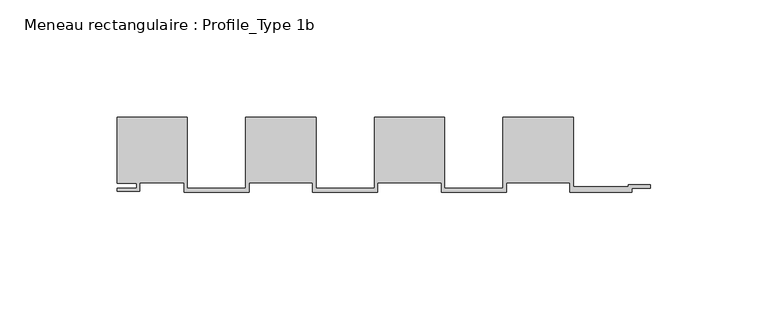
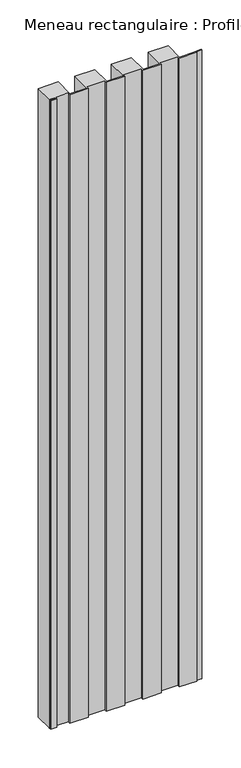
"""IFC4 building model written with IfcOpenShell, lengths in millimetres: member geometry, Meneau rectangulaire : Profile_Type 1b."""

import ifcopenshell
import ifcopenshell.guid

model = None  # the IFC model being written
_history = None  # IfcOwnerHistory: only IFC2X3 demands one
_inside = {}  # id of a spatial element -> (the spatial element, [elements in it])
_under = {}  # id of a project, library or spatial element -> (it, [spatial elements below it])
_declared = {}  # id of a project -> (the project, [libraries it declares])
_typed = {}  # id of a type object -> (the type object, [elements of that type])
_made_of = {}  # id of a material, layer set ... -> (it, [elements and type objects made of it])


def new_model(schema):
    """Start an empty IFC model of exactly this schema.

    Asked for "IFC4X3", IfcOpenShell would pick the latest addendum, in which some entities
    have other attributes; the version numbers below select the first issue.
    IFC2X3 requires an IfcOwnerHistory on every rooted entity: one is made here for all.
    """
    global model, _history
    if schema == "IFC4X3":
        model = ifcopenshell.file(schema_version=(4, 3, 0, 0))
    else:
        model = ifcopenshell.file(schema=schema)
    _inside.clear()
    _under.clear()
    _declared.clear()
    _typed.clear()
    _made_of.clear()
    _history = None
    if model.schema == "IFC2X3":
        org = make("IfcOrganization", Name="unknown")
        user = make(
            "IfcPersonAndOrganization",
            ThePerson=make("IfcPerson", FamilyName="unknown"),
            TheOrganization=org,
        )
        app = make(
            "IfcApplication",
            ApplicationDeveloper=org,
            Version="unknown",
            ApplicationFullName="unknown",
            ApplicationIdentifier="unknown",
        )
        _history = make(
            "IfcOwnerHistory",
            OwningUser=user,
            OwningApplication=app,
            ChangeAction="ADDED",
            CreationDate=0,
        )
    return model


def make(cls, **values):
    """One entity of the class cls with the attributes given. An attribute that is None is left unset."""
    return model.create_entity(
        cls, **{name: value for name, value in values.items() if value is not None}
    )


def rooted(cls, **values):
    """An entity with a GlobalId (a new one), such as an element, a storey or a relation."""
    return make(cls, GlobalId=ifcopenshell.guid.new(), OwnerHistory=_history, **values)


def si_unit(unit_type, name, prefix=None):
    """IfcSIUnit, for example si_unit("LENGTHUNIT", "METRE", prefix="MILLI")."""
    return make("IfcSIUnit", UnitType=unit_type, Prefix=prefix, Name=name)


def assignment(units):
    """IfcUnitAssignment: the units of a project."""
    return None if units is None else make("IfcUnitAssignment", Units=units)


def point(xyz):
    """IfcCartesianPoint."""
    return None if xyz is None else make("IfcCartesianPoint", Coordinates=xyz)


def direction(xyz):
    """IfcDirection."""
    return None if xyz is None else make("IfcDirection", DirectionRatios=xyz)


def frame(location, z_axis=None, x_axis=None):
    """IfcAxis2Placement3D, a coordinate frame: its origin and axes. An axis left out is left unset."""
    return make(
        "IfcAxis2Placement3D",
        Location=point(location),
        Axis=direction(z_axis),
        RefDirection=direction(x_axis),
    )


def frame_2d(location, x_axis=None):
    """IfcAxis2Placement2D, a coordinate frame in the plane: its origin and x axis."""
    return make(
        "IfcAxis2Placement2D", Location=point(location), RefDirection=direction(x_axis)
    )


def origin():
    """The frame at (0, 0, 0) with its axes left unset."""
    return frame((0.0, 0.0, 0.0))


def place(relative_to, where):
    """IfcLocalPlacement: puts the frame where relative to a parent placement (None: the world)."""
    return make(
        "IfcLocalPlacement", PlacementRelTo=relative_to, RelativePlacement=where
    )


def context(
    kind, dimensions, precision=None, world=None, true_north=None, identifier=None
):
    """IfcGeometricRepresentationContext, for example the 3D "Model" context."""
    return make(
        "IfcGeometricRepresentationContext",
        ContextIdentifier=identifier,
        ContextType=kind,
        CoordinateSpaceDimension=dimensions,
        Precision=precision,
        WorldCoordinateSystem=world,
        TrueNorth=true_north,
    )


def project(units=None, contexts=None):
    """IfcProject with its units and contexts."""
    return rooted(
        "IfcProject",
        Name="project",
        RepresentationContexts=contexts,
        UnitsInContext=assignment(units),
    )


def spatial(cls, under=None, at=None, **own):
    """A site, building, storey or space (cls), placed at a placement, below another one or the project."""
    s = rooted(cls, ObjectPlacement=at, **own)
    if under is not None:
        _under.setdefault(under.id(), (under, []))[1].append(s)
    return s


def polyline(points):
    """IfcPolyline through the points."""
    return make("IfcPolyline", Points=[point(p) for p in points])


def circle_curve(where, radius):
    """IfcCircle in the frame where."""
    return make("IfcCircle", Position=where, Radius=radius)


def trimmed(basis, trim1, trim2, sense, master):
    """IfcTrimmedCurve: the piece of a basis curve between two trims."""
    return make(
        "IfcTrimmedCurve",
        BasisCurve=basis,
        Trim1=trim1,
        Trim2=trim2,
        SenseAgreement=sense,
        MasterRepresentation=master,
    )


def segment(curve, same_sense, transition):
    """IfcCompositeCurveSegment."""
    return make(
        "IfcCompositeCurveSegment",
        Transition=transition,
        SameSense=same_sense,
        ParentCurve=curve,
    )


def composite_curve(segments, self_intersect=None):
    """IfcCompositeCurve: segments joined end to end."""
    return make("IfcCompositeCurve", Segments=segments, SelfIntersect=self_intersect)


def outline(outer, holes=None, kind="AREA"):
    """IfcArbitraryClosedProfileDef: a profile drawn as a closed curve; with holes, ...WithVoids."""
    if holes is None:
        return make("IfcArbitraryClosedProfileDef", ProfileType=kind, OuterCurve=outer)
    return make(
        "IfcArbitraryProfileDefWithVoids",
        ProfileType=kind,
        OuterCurve=outer,
        InnerCurves=holes,
    )


def extrude(swept, where, along, depth):
    """IfcExtrudedAreaSolid: the profile swept, set in the frame where, extruded along a direction by depth."""
    return make(
        "IfcExtrudedAreaSolid",
        SweptArea=swept,
        Position=where,
        ExtrudedDirection=direction(along),
        Depth=depth,
    )


def shape(context_of_items, identifier, shape_type, items):
    """IfcShapeRepresentation: the items that make up one representation, for example the "Body"."""
    return make(
        "IfcShapeRepresentation",
        ContextOfItems=context_of_items,
        RepresentationIdentifier=identifier,
        RepresentationType=shape_type,
        Items=items,
    )


def source(mapping_origin, context_of_items, identifier, shape_type, items):
    """IfcRepresentationMap: a shape defined once, which mapped items show again and again."""
    return make(
        "IfcRepresentationMap",
        MappingOrigin=mapping_origin,
        MappedRepresentation=shape(context_of_items, identifier, shape_type, items),
    )


def transform(
    local_origin,
    x_axis=None,
    y_axis=None,
    z_axis=None,
    scale=None,
    scale2=None,
    scale3=None,
    uniform=True,
):
    """IfcCartesianTransformationOperator3D, or its non-uniform kind. x_axis, y_axis, z_axis: its Axis1, 2, 3."""
    if uniform:
        return make(
            "IfcCartesianTransformationOperator3D",
            Axis1=direction(x_axis),
            Axis2=direction(y_axis),
            LocalOrigin=point(local_origin),
            Scale=scale,
            Axis3=direction(z_axis),
        )
    return make(
        "IfcCartesianTransformationOperator3DnonUniform",
        Axis1=direction(x_axis),
        Axis2=direction(y_axis),
        LocalOrigin=point(local_origin),
        Scale=scale,
        Axis3=direction(z_axis),
        Scale2=scale2,
        Scale3=scale3,
    )


def mapped(mapping_source, mapping_target):
    """IfcMappedItem: shows the shape of a source again, moved by a transform."""
    return make(
        "IfcMappedItem", MappingSource=mapping_source, MappingTarget=mapping_target
    )


def made_of(thing, what):
    """Note that an element or type object is made of a material, layer set ...; save() writes the relation."""
    if what is not None:
        _made_of.setdefault(what.id(), (what, []))[1].append(thing)
    return thing


def element(
    cls,
    number,
    at=None,
    inside=None,
    cuts=None,
    type_object=None,
    material=None,
    context=None,
    identifier="Body",
    shape_type=None,
    held_by="IfcProductDefinitionShape",
    body=None,
    shapes=None,
    **own,
):
    """One element of the class cls, such as IfcWall. Its Tag is "e" and its number.

    at: its placement. inside: the storey or other place that contains it. cuts: it is an
    opening in that element (IfcRelVoidsElement). A single representation is given by context,
    identifier, shape_type and body (its items); several are given by shapes. held_by: the class
    of the entity that holds the representations. save() writes the other relations.
    """
    e = rooted(cls, Tag="e%d" % number, ObjectPlacement=at, **own)
    if body is not None:
        shapes = [shape(context, identifier, shape_type, body)]
    if shapes is not None:
        e.Representation = make(held_by, Representations=shapes)
    if inside is not None:
        _inside.setdefault(inside.id(), (inside, []))[1].append(e)
    if cuts is not None:
        rooted(
            "IfcRelVoidsElement", RelatingBuildingElement=cuts, RelatedOpeningElement=e
        )
    if type_object is not None:
        _typed.setdefault(type_object.id(), (type_object, []))[1].append(e)
    return made_of(e, material)


def aggregate(whole, parts):
    """IfcRelAggregates: a whole, such as a stair, and the parts it consists of."""
    return rooted("IfcRelAggregates", RelatingObject=whole, RelatedObjects=parts)


def save(model, path):
    """Write the relations noted so far, then the file.

    IfcRelAggregates (storeys below a building ...), IfcRelContainedInSpatialStructure (elements
    in a storey), IfcRelDefinesByType, IfcRelAssociatesMaterial and IfcRelDeclares: one each for
    every whole, place, type object, material and project.
    """
    for whole, parts in _under.values():
        aggregate(whole, parts)
    for where, things in _inside.values():
        rooted(
            "IfcRelContainedInSpatialStructure",
            RelatedElements=things,
            RelatingStructure=where,
        )
    for kind, things in _typed.values():
        rooted("IfcRelDefinesByType", RelatedObjects=things, RelatingType=kind)
    for what, things in _made_of.values():
        rooted("IfcRelAssociatesMaterial", RelatedObjects=things, RelatingMaterial=what)
    for by, libraries in _declared.values():
        rooted("IfcRelDeclares", RelatingContext=by, RelatedDefinitions=libraries)
    model.write(path)


def meneau_rectangulaire_profile_type_1b_46663aac(model_context):
    return source(origin(), model_context, "Body", "SweptSolid", [
        extrude(outline(composite_curve([segment(polyline([(0.0301449, 41.0007666), (30.0301449, 41.0007666), (30.0301449, 10.65), (55.0270875, 10.65), (55.0270875, 41.0007666), (85.0270875, 41.0007666), (85.0270875, 10.65), (109.9788571, 10.65), (109.9788571, 41.0007666), (140.0240301, 41.0007666), (140.0240301, 10.65), (165.0209727, 10.65), (165.0209727, 41.0007666), (195.0209727, 41.0007666), (195.0209727, 11.2), (218.4753672, 11.2), (218.4753672, 12.0), (227.991216, 12.0), (227.991216, 10.65), (219.9937223, 10.65), (219.9937223, 8.8), (193.6209727, 8.8), (193.6209727, 12.9), (166.4209727, 12.9), (166.4209727, 8.8), (138.6240301, 8.8), (138.6240301, 12.9), (111.4240301, 12.9), (111.4240301, 8.8), (83.6270875, 8.8), (83.6270875, 12.9), (56.4270875, 12.9), (56.4270875, 8.8), (28.6301449, 8.8), (28.6301449, 12.9), (9.6195527, 12.9), (9.6195527, 9.4), (0.0, 9.4), (0.0, 10.5), (8.4195527, 10.5), (8.4195527, 12.7), (0.5290456, 12.7)]), True, "CONTINUOUS"), segment(trimmed(circle_curve(frame_2d((0.5290456, 13.1989007)), 0.4989007), [point((0.5290456, 12.7))], [point((0.0301449, 13.1989007))], False, "CARTESIAN"), True, "CONTINUOUS"), segment(polyline([(0.0301449, 13.1989007), (0.0301449, 41.0007666)]), True, "CONTINUOUS")], self_intersect=False)), frame((0.0, 0.0, -1000.0), z_axis=(0.0, 0.0, 1.0), x_axis=(1.0, 0.0, 0.0)), (0.0, 0.0, 1.0), 1000.0),
    ])


if __name__ == "__main__":
    model = new_model("IFC4")
    model_context = context("Model", 3, world=origin())
    ifc_project = project(units=[si_unit("LENGTHUNIT", "METRE", prefix="MILLI")], contexts=[model_context])
    site = spatial("IfcSite", under=ifc_project)
    building = spatial("IfcBuilding", under=site)
    placement = place(None, origin())
    meneau_rectangulaire_profile_type_1b_shape = meneau_rectangulaire_profile_type_1b_46663aac(model_context)
    element("IfcMember", 1, ObjectType="Meneau rectangulaire : Profile_Type 1b", at=placement, inside=building, context=model_context, shape_type="MappedRepresentation", body=[
        mapped(meneau_rectangulaire_profile_type_1b_shape, transform((0.0, 0.0, 0.0), x_axis=(1.0, 0.0, 0.0), y_axis=(0.0, 1.0, 0.0), z_axis=(0.0, 0.0, 1.0))),
    ])
    save(model, "model.ifc")
